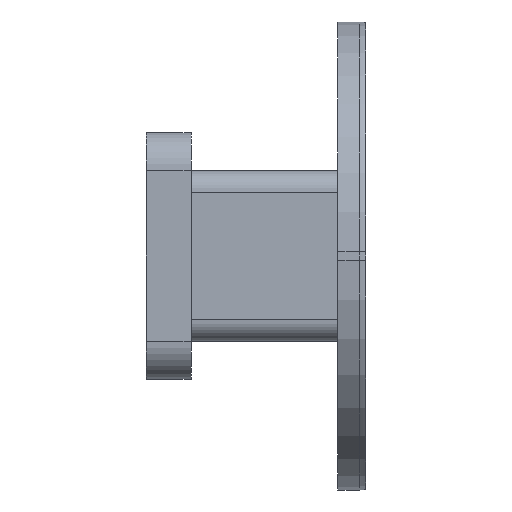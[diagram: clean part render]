
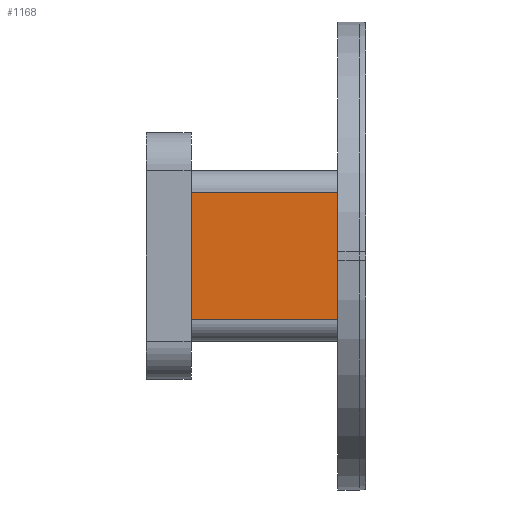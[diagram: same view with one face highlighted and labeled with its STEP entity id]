
A CAD part, front view. The second image highlights one B-rep face of the part: STEP entity #1168.
In plain terms, the highlighted planar face has unit normal (0, -1, 0).
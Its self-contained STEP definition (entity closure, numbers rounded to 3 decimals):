
#36=PLANE('',#1284);
#86=FACE_OUTER_BOUND('',#158,.T.);
#158=EDGE_LOOP('',(#907,#908,#909,#910));
#282=LINE('',#1799,#394);
#310=LINE('',#1887,#422);
#312=LINE('',#1894,#424);
#313=LINE('',#1895,#425);
#394=VECTOR('',#1422,1.);
#422=VECTOR('',#1516,1.);
#424=VECTOR('',#1524,1.);
#425=VECTOR('',#1525,1.);
#517=VERTEX_POINT('',#1796);
#518=VERTEX_POINT('',#1798);
#545=VERTEX_POINT('',#1885);
#547=VERTEX_POINT('',#1893);
#635=EDGE_CURVE('',#517,#518,#282,.T.);
#679=EDGE_CURVE('',#518,#545,#310,.T.);
#682=EDGE_CURVE('',#547,#545,#312,.T.);
#683=EDGE_CURVE('',#517,#547,#313,.T.);
#907=ORIENTED_EDGE('',*,*,#682,.T.);
#908=ORIENTED_EDGE('',*,*,#679,.F.);
#909=ORIENTED_EDGE('',*,*,#635,.F.);
#910=ORIENTED_EDGE('',*,*,#683,.T.);
#1168=ADVANCED_FACE('',(#86),#36,.T.);
#1284=AXIS2_PLACEMENT_3D('',#1892,#1522,#1523);
#1422=DIRECTION('',(0.,0.,-1.));
#1516=DIRECTION('',(-1.,0.,0.));
#1522=DIRECTION('center_axis',(0.,-1.,0.));
#1523=DIRECTION('ref_axis',(0.,0.,1.));
#1524=DIRECTION('',(0.,0.,-1.));
#1525=DIRECTION('',(-1.,0.,0.));
#1796=CARTESIAN_POINT('',(39.3,-13.4,-10.5));
#1798=CARTESIAN_POINT('',(39.3,-13.4,-13.5));
#1799=CARTESIAN_POINT('',(39.3,-13.4,-12.75));
#1885=CARTESIAN_POINT('',(35.85,-13.4,-13.5));
#1887=CARTESIAN_POINT('',(39.5,-13.4,-13.5));
#1892=CARTESIAN_POINT('Origin',(39.5,-13.4,-13.5));
#1893=CARTESIAN_POINT('',(35.85,-13.4,-10.5));
#1894=CARTESIAN_POINT('',(35.85,-13.4,-12.75));
#1895=CARTESIAN_POINT('',(39.5,-13.4,-10.5));
